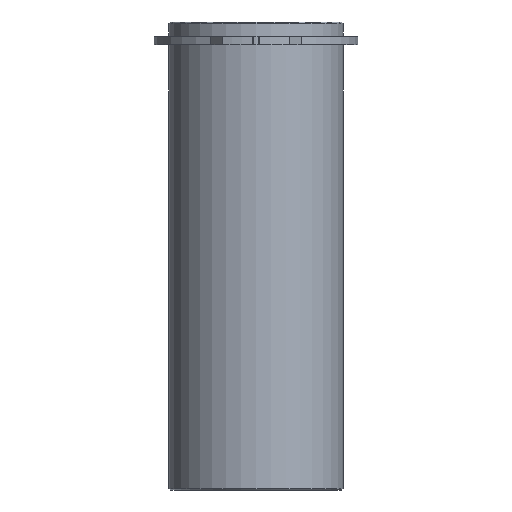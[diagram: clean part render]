
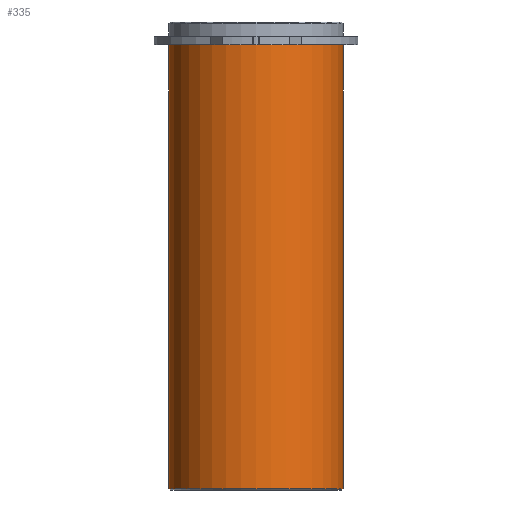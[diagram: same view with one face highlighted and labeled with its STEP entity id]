
A CAD part, front view. The second image highlights one B-rep face of the part: STEP entity #335.
In plain terms, the highlighted cylindrical face has radius 18.625 mm (diameter 37.25 mm), a partial arc.
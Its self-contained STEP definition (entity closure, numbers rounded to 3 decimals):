
#294=CARTESIAN_POINT('',(0.0,0.,-47.4));
#295=DIRECTION('',(0.0,0.,1.0));
#296=DIRECTION('',(1.0,0.0,0.0));
#297=AXIS2_PLACEMENT_3D('',#294,#295,#296);
#298=CYLINDRICAL_SURFACE('',#297,18.625);
#299=CARTESIAN_POINT('',(18.625,0.0,0.0));
#300=VERTEX_POINT('',#299);
#301=CARTESIAN_POINT('',(18.625,0.,-94.8));
#302=VERTEX_POINT('',#301);
#303=CARTESIAN_POINT('',(18.625,0.0,0.0));
#304=DIRECTION('',(0.0,0.0,-1.0));
#305=VECTOR('',#304,94.8);
#306=LINE('',#303,#305);
#307=EDGE_CURVE('',#300,#302,#306,.T.);
#308=ORIENTED_EDGE('',*,*,#307,.F.);
#309=CARTESIAN_POINT('',(-18.625,0.,0.0));
#310=VERTEX_POINT('',#309);
#311=CARTESIAN_POINT('',(0.0,0.0,0.0));
#312=DIRECTION('',(0.0,0.0,1.0));
#313=DIRECTION('',(1.0,0.0,0.0));
#314=AXIS2_PLACEMENT_3D('',#311,#312,#313);
#315=CIRCLE('',#314,18.625);
#316=EDGE_CURVE('',#310,#300,#315,.T.);
#317=ORIENTED_EDGE('',*,*,#316,.F.);
#318=CARTESIAN_POINT('',(-18.625,0.,-94.8));
#319=VERTEX_POINT('',#318);
#320=CARTESIAN_POINT('',(-18.625,0.,0.0));
#321=DIRECTION('',(0.0,0.0,-1.0));
#322=VECTOR('',#321,94.8);
#323=LINE('',#320,#322);
#324=EDGE_CURVE('',#310,#319,#323,.T.);
#325=ORIENTED_EDGE('',*,*,#324,.T.);
#326=CARTESIAN_POINT('',(0.0,0.,-94.8));
#327=DIRECTION('',(0.0,0.0,1.0));
#328=DIRECTION('',(1.0,0.0,0.0));
#329=AXIS2_PLACEMENT_3D('',#326,#327,#328);
#330=CIRCLE('',#329,18.625);
#331=EDGE_CURVE('',#319,#302,#330,.T.);
#332=ORIENTED_EDGE('',*,*,#331,.T.);
#333=EDGE_LOOP('',(#308,#317,#325,#332));
#334=FACE_OUTER_BOUND('',#333,.T.);
#335=ADVANCED_FACE('',(#334),#298,.T.);
